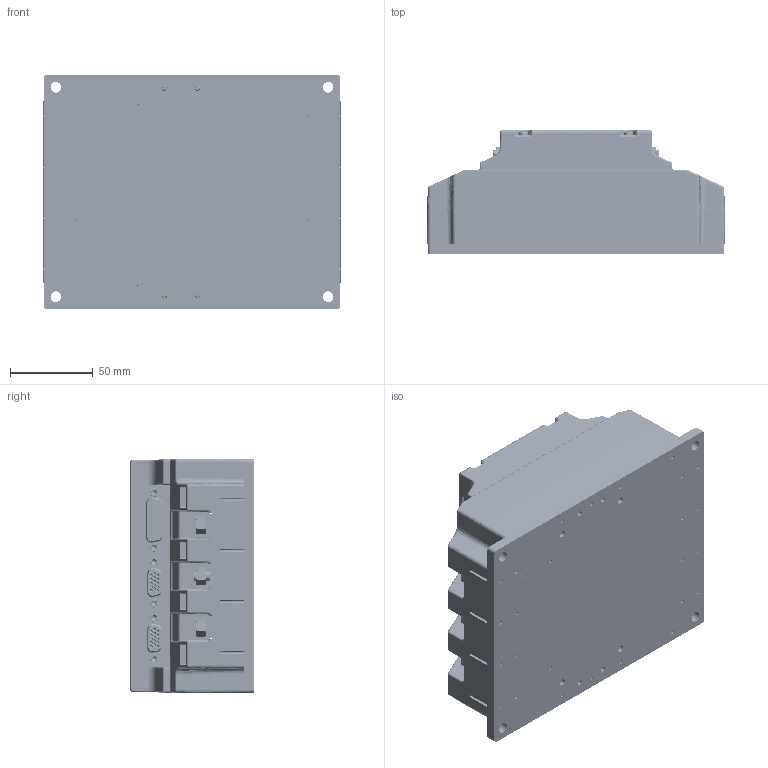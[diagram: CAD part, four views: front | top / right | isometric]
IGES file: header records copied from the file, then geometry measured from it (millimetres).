
Start section: SolidWorks IGES file using analytic representation for surfaces
Global section: file name: P:\Marketing\Manuals\ExtrIQ\Eagle HV\Graphic\solid\Eagle-HV.IGS; native system: SolidWorks 2008; preprocessor: SolidWorks 2008; author: shlomo; date: 110413.073219; units: millimetre
Bounding box: 180.34 x 75.2 x 142.34 mm (x, y, z)
Surface area: 280808.5 mm2 (no closed solid volume)
Topology: 0 solids, 0 shells, 7340 faces, 66616 edges, 66446 vertices
Faces by surface type: bspline 4566, revolution 2774
